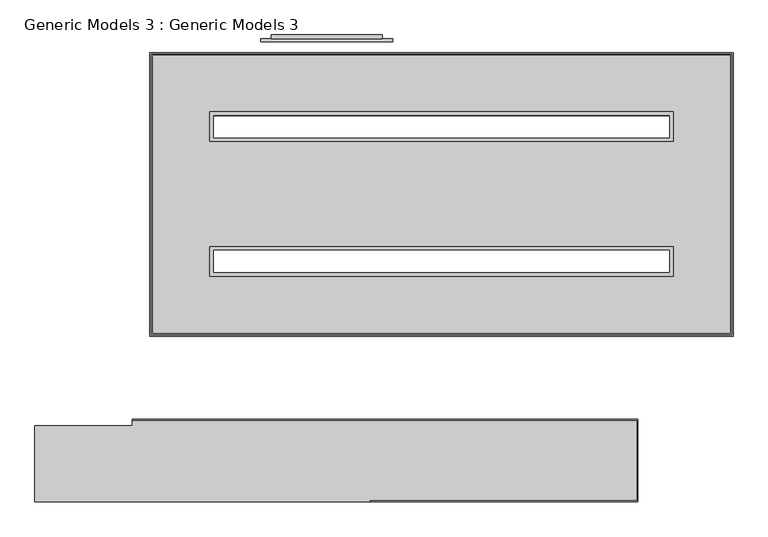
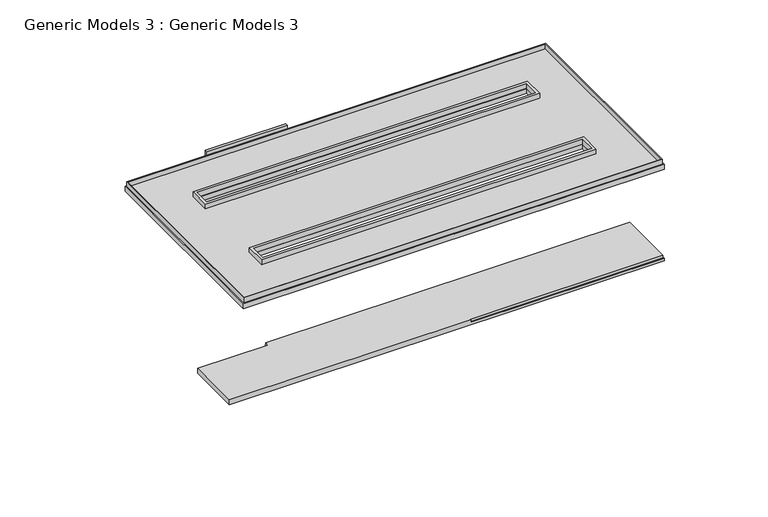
"""IFC4 building model written with IfcOpenShell, lengths in millimetres: proxy geometry, Generic Models 3 : Generic Models 3."""

from ifc_helpers import new_model, si_unit, frame, origin, place, context, project, spatial, polyline, circle_curve, outline, extrude, faceted_brep, source, transform, mapped, element, save
from ifc_brep_helpers import plane_surface, revolved_surface, advanced_brep


def generic_models_3_generic_models_3_4cce19c5(model_context):
    return source(origin(), model_context, "Body", "SolidModel", [
        extrude(outline(polyline([(1168.7283105, 3450.7516238), (-5379.6613932, 3450.7516238), (-5379.6613932, 3870.0030023), (1168.7283105, 3870.0030023), (1168.7283105, 3450.7516238)]), holes=[polyline([(1113.8919816, 3815.1666734), (-5324.8250642, 3815.1666734), (-5324.8250642, 3505.5879527), (1113.8919816, 3505.5879527), (1113.8919816, 3815.1666734)])]), frame((0.0, 0.0, 2450.0), z_axis=(0.0, 0.0, 1.0), x_axis=(1.0, 0.0, 0.0)), (0.0, 0.0, 1.0), 100.0),
        extrude(outline(polyline([(1168.7283105, 1546.1268229), (-5379.6613932, 1546.1268229), (-5379.6613932, 1965.3782014), (1168.7283105, 1965.3782014), (1168.7283105, 1546.1268229)]), holes=[polyline([(1113.8919816, 1910.5418725), (-5324.8250642, 1910.5418725), (-5324.8250642, 1600.9631518), (1113.8919816, 1600.9631518), (1113.8919816, 1910.5418725)])]), frame((0.0, 0.0, 2450.0), z_axis=(0.0, 0.0, 1.0), x_axis=(1.0, 0.0, 0.0)), (0.0, 0.0, 1.0), 100.0),
        extrude(outline(polyline([(1993.8919816, 720.9631518), (-6204.8250642, 720.9631518), (-6204.8250642, 4685.5879527), (1993.8919816, 4685.5879527), (1993.8919816, 720.9631518)]), holes=[polyline([(1973.8919816, 4665.5879527), (-6184.8250642, 4665.5879527), (-6184.8250642, 740.9631518), (1973.8919816, 740.9631518), (1973.8919816, 4665.5879527)])]), frame((0.0, 0.0, 2450.0), z_axis=(0.0, 0.0, 1.0), x_axis=(1.0, 0.0, 0.0)), (0.0, 0.0, 1.0), 100.0),
        faceted_brep([(-7848.5491004, -566.5989847, 2450.0), (-7848.5491004, -1640.348587, 2450.0), (-3119.7531345, -1640.348587, 2450.0), (-3119.7531345, -1620.348587, 2450.0), (650.0523126, -1620.348587, 2450.0), (650.0523126, -492.1377828, 2450.0), (-6474.8250642, -492.1377828, 2450.0), (-6474.8250642, -566.5989847, 2450.0), (-7848.5491004, -566.5989847, 2350.0), (-6474.8250642, -566.5989847, 2350.0), (-6474.8250642, -472.1377828, 2350.0), (670.0523126, -472.1377828, 2350.0), (670.0523126, -1640.348587, 2350.0), (-7848.5491004, -1640.348587, 2350.0), (670.0523126, -1640.348587, 2400.0), (-3119.7531345, -1640.348587, 2400.0), (670.0523126, -472.1377828, 2400.0), (-6474.8250642, -472.1377828, 2400.0), (-6474.8250642, -492.1377828, 2400.0), (-3119.7531345, -1620.348587, 2400.0), (650.0523126, -1620.348587, 2400.0), (650.0523126, -492.1377828, 2400.0)], [[[0, 1, 2, 3, 4, 5, 6, 7]], [[8, 9, 10, 11, 12, 13]], [[1, 0, 8, 13]], [[13, 12, 14, 15, 2, 1]], [[12, 11, 16, 14]], [[11, 10, 17, 16]], [[10, 9, 7, 6, 18, 17]], [[0, 7, 9, 8]], [[15, 19, 3, 2]], [[3, 19, 20, 4]], [[19, 15, 14, 16, 17, 18, 21, 20]], [[4, 20, 21, 5]], [[21, 18, 6, 5]]]),
        advanced_brep(
        [(-6224.8250642, 700.9631518, 2450.0), (2013.8919816, 700.9631518, 2450.0), (2013.8919816, 4705.5879527, 2450.0), (-6224.8250642, 4705.5879527, 2450.0), (1113.8919816, 1600.9631518, 2450.0), (-5324.8250642, 1600.9631518, 2450.0), (-5324.8250642, 1910.5418725, 2450.0), (1113.8919816, 1910.5418725, 2450.0), (1113.8919816, 3805.5879527, 2450.0), (1113.8919816, 3505.5879527, 2450.0), (-5324.8250642, 3505.5879527, 2450.0), (-5324.8250642, 3805.5879527, 2450.0), (-6224.8250642, 700.9631518, 2350.0), (-6224.8250642, 4705.5879527, 2350.0), (2013.8919816, 4705.5879527, 2350.0), (2013.8919816, 700.9631518, 2350.0), (1113.8919816, 1600.9631518, 2350.0), (1113.8919816, 1910.5418725, 2350.0), (-5324.8250642, 1910.5418725, 2350.0), (-5324.8250642, 1600.9631518, 2350.0), (1113.8919816, 3805.5879527, 2350.0), (-5324.8250642, 3805.5879527, 2350.0), (-5324.8250642, 3505.5879527, 2350.0), (1113.8919816, 3505.5879527, 2350.0), (613.1904707, 2712.3978148, 2350.0), (714.5934952, 2712.3978148, 2350.0), (-2156.1665461, 4265.1666734, 2350.0), (-2054.7665365, 4265.1666734, 2350.0), (-1233.047038, 4265.1666734, 2350.0), (-1131.6470285, 4265.1666734, 2350.0), (-309.9275299, 4265.1666734, 2350.0), (-208.5275204, 4265.1666734, 2350.0), (613.1919782, 4265.1666734, 2350.0), (714.5919877, 4265.1666734, 2350.0), (1513.1919768, 4265.1666734, 2350.0), (1614.5919864, 4265.1666734, 2350.0), (-3079.2860542, 4265.1666734, 2350.0), (-2977.8860446, 4265.1666734, 2350.0), (-4002.4055623, 4265.1666734, 2350.0), (-3901.0055527, 4265.1666734, 2350.0), (-4925.5250704, 4265.1666734, 2350.0), (-4824.1250608, 4265.1666734, 2350.0), (-5825.525069, 4265.1666734, 2350.0), (-5724.1250595, 4265.1666734, 2350.0), (-2156.1665461, 1150.9631518, 2350.0), (-2054.7665365, 1150.9631518, 2350.0), (-1233.047038, 1150.9631518, 2350.0), (-1131.6470285, 1150.9631518, 2350.0), (-309.9275299, 1150.9631518, 2350.0), (-208.5275204, 1150.9631518, 2350.0), (613.1919782, 1150.9631518, 2350.0), (714.5919877, 1150.9631518, 2350.0), (1513.1919768, 1150.9631518, 2350.0), (1614.5919864, 1150.9631518, 2350.0), (-3079.2860542, 1150.9631518, 2350.0), (-2977.8860446, 1150.9631518, 2350.0), (-4002.4055623, 1150.9631518, 2350.0), (-3901.0055527, 1150.9631518, 2350.0), (-4925.5250704, 1150.9631518, 2350.0), (-4824.1250608, 1150.9631518, 2350.0), (-5825.525069, 1150.9631518, 2350.0), (-5724.1250595, 1150.9631518, 2350.0), (-2156.1665461, 2708.0649126, 2350.0), (-2054.7665365, 2708.0649126, 2350.0), (-1233.047038, 2708.0649126, 2350.0), (-1131.6470285, 2708.0649126, 2350.0), (-309.9275299, 2708.0649126, 2350.0), (-208.5275204, 2708.0649126, 2350.0), (1513.1919768, 2708.0649126, 2350.0), (1614.5919864, 2708.0649126, 2350.0), (-3079.2860542, 2708.0649126, 2350.0), (-2977.8860446, 2708.0649126, 2350.0), (-4002.4055623, 2708.0649126, 2350.0), (-3901.0055527, 2708.0649126, 2350.0), (-4925.5250704, 2708.0649126, 2350.0), (-4824.1250608, 2708.0649126, 2350.0), (-5825.525069, 2708.0649126, 2350.0), (-5724.1250595, 2708.0649126, 2350.0), (613.1904707, 2712.3978148, 2388.4), (714.5934952, 2712.3978148, 2388.4), (-2156.1665461, 4265.1666734, 2388.4), (-2054.7665365, 4265.1666734, 2388.4), (-1233.047038, 4265.1666734, 2388.4), (-1131.6470285, 4265.1666734, 2388.4), (-309.9275299, 4265.1666734, 2388.4), (-208.5275204, 4265.1666734, 2388.4), (613.1919782, 4265.1666734, 2388.4), (714.5919877, 4265.1666734, 2388.4), (1513.1919768, 4265.1666734, 2388.4), (1614.5919864, 4265.1666734, 2388.4), (-3079.2860542, 4265.1666734, 2388.4), (-2977.8860446, 4265.1666734, 2388.4), (-4002.4055623, 4265.1666734, 2388.4), (-3901.0055527, 4265.1666734, 2388.4), (-4925.5250704, 4265.1666734, 2388.4), (-4824.1250608, 4265.1666734, 2388.4), (-5825.525069, 4265.1666734, 2388.4), (-5724.1250595, 4265.1666734, 2388.4), (-2156.1665461, 1150.9631518, 2388.4), (-2054.7665365, 1150.9631518, 2388.4), (-1233.047038, 1150.9631518, 2388.4), (-1131.6470285, 1150.9631518, 2388.4), (-309.9275299, 1150.9631518, 2388.4), (-208.5275204, 1150.9631518, 2388.4), (613.1919782, 1150.9631518, 2388.4), (714.5919877, 1150.9631518, 2388.4), (1513.1919768, 1150.9631518, 2388.4), (1614.5919864, 1150.9631518, 2388.4), (-3079.2860542, 1150.9631518, 2388.4), (-2977.8860446, 1150.9631518, 2388.4), (-4002.4055623, 1150.9631518, 2388.4), (-3901.0055527, 1150.9631518, 2388.4), (-4925.5250704, 1150.9631518, 2388.4), (-4824.1250608, 1150.9631518, 2388.4), (-5825.525069, 1150.9631518, 2388.4), (-5724.1250595, 1150.9631518, 2388.4), (-2156.1665461, 2708.0649126, 2388.4), (-2054.7665365, 2708.0649126, 2388.4), (-1233.047038, 2708.0649126, 2388.4), (-1131.6470285, 2708.0649126, 2388.4), (-309.9275299, 2708.0649126, 2388.4), (-208.5275204, 2708.0649126, 2388.4), (1513.1919768, 2708.0649126, 2388.4), (1614.5919864, 2708.0649126, 2388.4), (-3079.2860542, 2708.0649126, 2388.4), (-2977.8860446, 2708.0649126, 2388.4), (-4002.4055623, 2708.0649126, 2388.4), (-3901.0055527, 2708.0649126, 2388.4), (-4925.5250704, 2708.0649126, 2388.4), (-4824.1250608, 2708.0649126, 2388.4), (-5825.525069, 2708.0649126, 2388.4), (-5724.1250595, 2708.0649126, 2388.4)],
        [
            (0, 1),
            (1, 2),
            (2, 3),
            (3, 0),
            (4, 5),
            (5, 6),
            (6, 7),
            (7, 4),
            (8, 9),
            (9, 10),
            (10, 11),
            (11, 8),
            (12, 13),
            (13, 14),
            (14, 15),
            (15, 12),
            (16, 17),
            (17, 18),
            (18, 19),
            (19, 16),
            (20, 21),
            (21, 22),
            (22, 23),
            (23, 20),
            (24, 25, circle_curve(frame((663.8919829, 2712.3978148, 2350.0), z_axis=(0.0, 0.0, 1.0), x_axis=(1.0, 0.0, 0.0)), 50.7015123)),
            (25, 24, circle_curve(frame((663.8919829, 2712.3978148, 2350.0), z_axis=(0.0, 0.0, 1.0), x_axis=(1.0, 0.0, 0.0)), 50.7015123)),
            (26, 27, circle_curve(frame((-2105.4665413, 4265.1666734, 2350.0), z_axis=(0.0, 0.0, 1.0), x_axis=(1.0, 0.0, 0.0)), 50.7000048)),
            (27, 26, circle_curve(frame((-2105.4665413, 4265.1666734, 2350.0), z_axis=(0.0, 0.0, 1.0), x_axis=(1.0, 0.0, 0.0)), 50.7000048)),
            (28, 29, circle_curve(frame((-1182.3470332, 4265.1666734, 2350.0), z_axis=(0.0, 0.0, 1.0), x_axis=(1.0, 0.0, 0.0)), 50.7000048)),
            (29, 28, circle_curve(frame((-1182.3470332, 4265.1666734, 2350.0), z_axis=(0.0, 0.0, 1.0), x_axis=(1.0, 0.0, 0.0)), 50.7000048)),
            (30, 31, circle_curve(frame((-259.2275251, 4265.1666734, 2350.0), z_axis=(0.0, 0.0, 1.0), x_axis=(1.0, 0.0, 0.0)), 50.7000048)),
            (31, 30, circle_curve(frame((-259.2275251, 4265.1666734, 2350.0), z_axis=(0.0, 0.0, 1.0), x_axis=(1.0, 0.0, 0.0)), 50.7000048)),
            (32, 33, circle_curve(frame((663.8919829, 4265.1666734, 2350.0), z_axis=(0.0, 0.0, 1.0), x_axis=(1.0, 0.0, 0.0)), 50.7000048)),
            (33, 32, circle_curve(frame((663.8919829, 4265.1666734, 2350.0), z_axis=(0.0, 0.0, 1.0), x_axis=(1.0, 0.0, 0.0)), 50.7000048)),
            (34, 35, circle_curve(frame((1563.8919816, 4265.1666734, 2350.0), z_axis=(0.0, 0.0, 1.0), x_axis=(1.0, 0.0, 0.0)), 50.7000048)),
            (35, 34, circle_curve(frame((1563.8919816, 4265.1666734, 2350.0), z_axis=(0.0, 0.0, 1.0), x_axis=(1.0, 0.0, 0.0)), 50.7000048)),
            (36, 37, circle_curve(frame((-3028.5860494, 4265.1666734, 2350.0), z_axis=(0.0, 0.0, 1.0), x_axis=(1.0, 0.0, 0.0)), 50.7000048)),
            (37, 36, circle_curve(frame((-3028.5860494, 4265.1666734, 2350.0), z_axis=(0.0, 0.0, 1.0), x_axis=(1.0, 0.0, 0.0)), 50.7000048)),
            (38, 39, circle_curve(frame((-3951.7055575, 4265.1666734, 2350.0), z_axis=(0.0, 0.0, 1.0), x_axis=(1.0, 0.0, 0.0)), 50.7000048)),
            (39, 38, circle_curve(frame((-3951.7055575, 4265.1666734, 2350.0), z_axis=(0.0, 0.0, 1.0), x_axis=(1.0, 0.0, 0.0)), 50.7000048)),
            (40, 41, circle_curve(frame((-4874.8250656, 4265.1666734, 2350.0), z_axis=(0.0, 0.0, 1.0), x_axis=(1.0, 0.0, 0.0)), 50.7000048)),
            (41, 40, circle_curve(frame((-4874.8250656, 4265.1666734, 2350.0), z_axis=(0.0, 0.0, 1.0), x_axis=(1.0, 0.0, 0.0)), 50.7000048)),
            (42, 43, circle_curve(frame((-5774.8250642, 4265.1666734, 2350.0), z_axis=(0.0, 0.0, 1.0), x_axis=(1.0, 0.0, 0.0)), 50.7000048)),
            (43, 42, circle_curve(frame((-5774.8250642, 4265.1666734, 2350.0), z_axis=(0.0, 0.0, 1.0), x_axis=(1.0, 0.0, 0.0)), 50.7000048)),
            (44, 45, circle_curve(frame((-2105.4665413, 1150.9631518, 2350.0), z_axis=(0.0, 0.0, 1.0), x_axis=(1.0, 0.0, 0.0)), 50.7000048)),
            (45, 44, circle_curve(frame((-2105.4665413, 1150.9631518, 2350.0), z_axis=(0.0, 0.0, 1.0), x_axis=(1.0, 0.0, 0.0)), 50.7000048)),
            (46, 47, circle_curve(frame((-1182.3470332, 1150.9631518, 2350.0), z_axis=(0.0, 0.0, 1.0), x_axis=(1.0, 0.0, 0.0)), 50.7000048)),
            (47, 46, circle_curve(frame((-1182.3470332, 1150.9631518, 2350.0), z_axis=(0.0, 0.0, 1.0), x_axis=(1.0, 0.0, 0.0)), 50.7000048)),
            (48, 49, circle_curve(frame((-259.2275251, 1150.9631518, 2350.0), z_axis=(0.0, 0.0, 1.0), x_axis=(1.0, 0.0, 0.0)), 50.7000048)),
            (49, 48, circle_curve(frame((-259.2275251, 1150.9631518, 2350.0), z_axis=(0.0, 0.0, 1.0), x_axis=(1.0, 0.0, 0.0)), 50.7000048)),
            (50, 51, circle_curve(frame((663.8919829, 1150.9631518, 2350.0), z_axis=(0.0, 0.0, 1.0), x_axis=(1.0, 0.0, 0.0)), 50.7000048)),
            (51, 50, circle_curve(frame((663.8919829, 1150.9631518, 2350.0), z_axis=(0.0, 0.0, 1.0), x_axis=(1.0, 0.0, 0.0)), 50.7000048)),
            (52, 53, circle_curve(frame((1563.8919816, 1150.9631518, 2350.0), z_axis=(0.0, 0.0, 1.0), x_axis=(1.0, 0.0, 0.0)), 50.7000048)),
            (53, 52, circle_curve(frame((1563.8919816, 1150.9631518, 2350.0), z_axis=(0.0, 0.0, 1.0), x_axis=(1.0, 0.0, 0.0)), 50.7000048)),
            (54, 55, circle_curve(frame((-3028.5860494, 1150.9631518, 2350.0), z_axis=(0.0, 0.0, 1.0), x_axis=(1.0, 0.0, 0.0)), 50.7000048)),
            (55, 54, circle_curve(frame((-3028.5860494, 1150.9631518, 2350.0), z_axis=(0.0, 0.0, 1.0), x_axis=(1.0, 0.0, 0.0)), 50.7000048)),
            (56, 57, circle_curve(frame((-3951.7055575, 1150.9631518, 2350.0), z_axis=(0.0, 0.0, 1.0), x_axis=(1.0, 0.0, 0.0)), 50.7000048)),
            (57, 56, circle_curve(frame((-3951.7055575, 1150.9631518, 2350.0), z_axis=(0.0, 0.0, 1.0), x_axis=(1.0, 0.0, 0.0)), 50.7000048)),
            (58, 59, circle_curve(frame((-4874.8250656, 1150.9631518, 2350.0), z_axis=(0.0, 0.0, 1.0), x_axis=(1.0, 0.0, 0.0)), 50.7000048)),
            (59, 58, circle_curve(frame((-4874.8250656, 1150.9631518, 2350.0), z_axis=(0.0, 0.0, 1.0), x_axis=(1.0, 0.0, 0.0)), 50.7000048)),
            (60, 61, circle_curve(frame((-5774.8250642, 1150.9631518, 2350.0), z_axis=(0.0, 0.0, 1.0), x_axis=(1.0, 0.0, 0.0)), 50.7000048)),
            (61, 60, circle_curve(frame((-5774.8250642, 1150.9631518, 2350.0), z_axis=(0.0, 0.0, 1.0), x_axis=(1.0, 0.0, 0.0)), 50.7000048)),
            (62, 63, circle_curve(frame((-2105.4665413, 2708.0649126, 2350.0), z_axis=(0.0, 0.0, 1.0), x_axis=(1.0, 0.0, 0.0)), 50.7000048)),
            (63, 62, circle_curve(frame((-2105.4665413, 2708.0649126, 2350.0), z_axis=(0.0, 0.0, 1.0), x_axis=(1.0, 0.0, 0.0)), 50.7000048)),
            (64, 65, circle_curve(frame((-1182.3470332, 2708.0649126, 2350.0), z_axis=(0.0, 0.0, 1.0), x_axis=(1.0, 0.0, 0.0)), 50.7000048)),
            (65, 64, circle_curve(frame((-1182.3470332, 2708.0649126, 2350.0), z_axis=(0.0, 0.0, 1.0), x_axis=(1.0, 0.0, 0.0)), 50.7000048)),
            (66, 67, circle_curve(frame((-259.2275251, 2708.0649126, 2350.0), z_axis=(0.0, 0.0, 1.0), x_axis=(1.0, 0.0, 0.0)), 50.7000048)),
            (67, 66, circle_curve(frame((-259.2275251, 2708.0649126, 2350.0), z_axis=(0.0, 0.0, 1.0), x_axis=(1.0, 0.0, 0.0)), 50.7000048)),
            (68, 69, circle_curve(frame((1563.8919816, 2708.0649126, 2350.0), z_axis=(0.0, 0.0, 1.0), x_axis=(1.0, 0.0, 0.0)), 50.7000048)),
            (69, 68, circle_curve(frame((1563.8919816, 2708.0649126, 2350.0), z_axis=(0.0, 0.0, 1.0), x_axis=(1.0, 0.0, 0.0)), 50.7000048)),
            (70, 71, circle_curve(frame((-3028.5860494, 2708.0649126, 2350.0), z_axis=(0.0, 0.0, 1.0), x_axis=(1.0, 0.0, 0.0)), 50.7000048)),
            (71, 70, circle_curve(frame((-3028.5860494, 2708.0649126, 2350.0), z_axis=(0.0, 0.0, 1.0), x_axis=(1.0, 0.0, 0.0)), 50.7000048)),
            (72, 73, circle_curve(frame((-3951.7055575, 2708.0649126, 2350.0), z_axis=(0.0, 0.0, 1.0), x_axis=(1.0, 0.0, 0.0)), 50.7000048)),
            (73, 72, circle_curve(frame((-3951.7055575, 2708.0649126, 2350.0), z_axis=(0.0, 0.0, 1.0), x_axis=(1.0, 0.0, 0.0)), 50.7000048)),
            (74, 75, circle_curve(frame((-4874.8250656, 2708.0649126, 2350.0), z_axis=(0.0, 0.0, 1.0), x_axis=(1.0, 0.0, 0.0)), 50.7000048)),
            (75, 74, circle_curve(frame((-4874.8250656, 2708.0649126, 2350.0), z_axis=(0.0, 0.0, 1.0), x_axis=(1.0, 0.0, 0.0)), 50.7000048)),
            (76, 77, circle_curve(frame((-5774.8250642, 2708.0649126, 2350.0), z_axis=(0.0, 0.0, 1.0), x_axis=(1.0, 0.0, 0.0)), 50.7000048)),
            (77, 76, circle_curve(frame((-5774.8250642, 2708.0649126, 2350.0), z_axis=(0.0, 0.0, 1.0), x_axis=(1.0, 0.0, 0.0)), 50.7000048)),
            (2, 14),
            (13, 3),
            (12, 0),
            (15, 1),
            (78, 79, circle_curve(frame((663.8919829, 2712.3978148, 2388.4), z_axis=(0.0, 0.0, -1.0), x_axis=(1.0, 0.0, 0.0)), 50.7015123)),
            (79, 78, circle_curve(frame((663.8919829, 2712.3978148, 2388.4), z_axis=(0.0, 0.0, -1.0), x_axis=(1.0, 0.0, 0.0)), 50.7015123)),
            (80, 81, circle_curve(frame((-2105.4665413, 4265.1666734, 2388.4), z_axis=(0.0, 0.0, -1.0), x_axis=(1.0, 0.0, 0.0)), 50.7000048)),
            (81, 80, circle_curve(frame((-2105.4665413, 4265.1666734, 2388.4), z_axis=(0.0, 0.0, -1.0), x_axis=(1.0, 0.0, 0.0)), 50.7000048)),
            (82, 83, circle_curve(frame((-1182.3470332, 4265.1666734, 2388.4), z_axis=(0.0, 0.0, -1.0), x_axis=(1.0, 0.0, 0.0)), 50.7000048)),
            (83, 82, circle_curve(frame((-1182.3470332, 4265.1666734, 2388.4), z_axis=(0.0, 0.0, -1.0), x_axis=(1.0, 0.0, 0.0)), 50.7000048)),
            (84, 85, circle_curve(frame((-259.2275251, 4265.1666734, 2388.4), z_axis=(0.0, 0.0, -1.0), x_axis=(1.0, 0.0, 0.0)), 50.7000048)),
            (85, 84, circle_curve(frame((-259.2275251, 4265.1666734, 2388.4), z_axis=(0.0, 0.0, -1.0), x_axis=(1.0, 0.0, 0.0)), 50.7000048)),
            (86, 87, circle_curve(frame((663.8919829, 4265.1666734, 2388.4), z_axis=(0.0, 0.0, -1.0), x_axis=(1.0, 0.0, 0.0)), 50.7000048)),
            (87, 86, circle_curve(frame((663.8919829, 4265.1666734, 2388.4), z_axis=(0.0, 0.0, -1.0), x_axis=(1.0, 0.0, 0.0)), 50.7000048)),
            (88, 89, circle_curve(frame((1563.8919816, 4265.1666734, 2388.4), z_axis=(0.0, 0.0, -1.0), x_axis=(1.0, 0.0, 0.0)), 50.7000048)),
            (89, 88, circle_curve(frame((1563.8919816, 4265.1666734, 2388.4), z_axis=(0.0, 0.0, -1.0), x_axis=(1.0, 0.0, 0.0)), 50.7000048)),
            (90, 91, circle_curve(frame((-3028.5860494, 4265.1666734, 2388.4), z_axis=(0.0, 0.0, -1.0), x_axis=(1.0, 0.0, 0.0)), 50.7000048)),
            (91, 90, circle_curve(frame((-3028.5860494, 4265.1666734, 2388.4), z_axis=(0.0, 0.0, -1.0), x_axis=(1.0, 0.0, 0.0)), 50.7000048)),
            (92, 93, circle_curve(frame((-3951.7055575, 4265.1666734, 2388.4), z_axis=(0.0, 0.0, -1.0), x_axis=(1.0, 0.0, 0.0)), 50.7000048)),
            (93, 92, circle_curve(frame((-3951.7055575, 4265.1666734, 2388.4), z_axis=(0.0, 0.0, -1.0), x_axis=(1.0, 0.0, 0.0)), 50.7000048)),
            (94, 95, circle_curve(frame((-4874.8250656, 4265.1666734, 2388.4), z_axis=(0.0, 0.0, -1.0), x_axis=(1.0, 0.0, 0.0)), 50.7000048)),
            (95, 94, circle_curve(frame((-4874.8250656, 4265.1666734, 2388.4), z_axis=(0.0, 0.0, -1.0), x_axis=(1.0, 0.0, 0.0)), 50.7000048)),
            (96, 97, circle_curve(frame((-5774.8250642, 4265.1666734, 2388.4), z_axis=(0.0, 0.0, -1.0), x_axis=(1.0, 0.0, 0.0)), 50.7000048)),
            (97, 96, circle_curve(frame((-5774.8250642, 4265.1666734, 2388.4), z_axis=(0.0, 0.0, -1.0), x_axis=(1.0, 0.0, 0.0)), 50.7000048)),
            (98, 99, circle_curve(frame((-2105.4665413, 1150.9631518, 2388.4), z_axis=(0.0, 0.0, -1.0), x_axis=(1.0, 0.0, 0.0)), 50.7000048)),
            (99, 98, circle_curve(frame((-2105.4665413, 1150.9631518, 2388.4), z_axis=(0.0, 0.0, -1.0), x_axis=(1.0, 0.0, 0.0)), 50.7000048)),
            (100, 101, circle_curve(frame((-1182.3470332, 1150.9631518, 2388.4), z_axis=(0.0, 0.0, -1.0), x_axis=(1.0, 0.0, 0.0)), 50.7000048)),
            (101, 100, circle_curve(frame((-1182.3470332, 1150.9631518, 2388.4), z_axis=(0.0, 0.0, -1.0), x_axis=(1.0, 0.0, 0.0)), 50.7000048)),
            (102, 103, circle_curve(frame((-259.2275251, 1150.9631518, 2388.4), z_axis=(0.0, 0.0, -1.0), x_axis=(1.0, 0.0, 0.0)), 50.7000048)),
            (103, 102, circle_curve(frame((-259.2275251, 1150.9631518, 2388.4), z_axis=(0.0, 0.0, -1.0), x_axis=(1.0, 0.0, 0.0)), 50.7000048)),
            (104, 105, circle_curve(frame((663.8919829, 1150.9631518, 2388.4), z_axis=(0.0, 0.0, -1.0), x_axis=(1.0, 0.0, 0.0)), 50.7000048)),
            (105, 104, circle_curve(frame((663.8919829, 1150.9631518, 2388.4), z_axis=(0.0, 0.0, -1.0), x_axis=(1.0, 0.0, 0.0)), 50.7000048)),
            (106, 107, circle_curve(frame((1563.8919816, 1150.9631518, 2388.4), z_axis=(0.0, 0.0, -1.0), x_axis=(1.0, 0.0, 0.0)), 50.7000048)),
            (107, 106, circle_curve(frame((1563.8919816, 1150.9631518, 2388.4), z_axis=(0.0, 0.0, -1.0), x_axis=(1.0, 0.0, 0.0)), 50.7000048)),
            (108, 109, circle_curve(frame((-3028.5860494, 1150.9631518, 2388.4), z_axis=(0.0, 0.0, -1.0), x_axis=(1.0, 0.0, 0.0)), 50.7000048)),
            (109, 108, circle_curve(frame((-3028.5860494, 1150.9631518, 2388.4), z_axis=(0.0, 0.0, -1.0), x_axis=(1.0, 0.0, 0.0)), 50.7000048)),
            (110, 111, circle_curve(frame((-3951.7055575, 1150.9631518, 2388.4), z_axis=(0.0, 0.0, -1.0), x_axis=(1.0, 0.0, 0.0)), 50.7000048)),
            (111, 110, circle_curve(frame((-3951.7055575, 1150.9631518, 2388.4), z_axis=(0.0, 0.0, -1.0), x_axis=(1.0, 0.0, 0.0)), 50.7000048)),
            (112, 113, circle_curve(frame((-4874.8250656, 1150.9631518, 2388.4), z_axis=(0.0, 0.0, -1.0), x_axis=(1.0, 0.0, 0.0)), 50.7000048)),
            (113, 112, circle_curve(frame((-4874.8250656, 1150.9631518, 2388.4), z_axis=(0.0, 0.0, -1.0), x_axis=(1.0, 0.0, 0.0)), 50.7000048)),
            (114, 115, circle_curve(frame((-5774.8250642, 1150.9631518, 2388.4), z_axis=(0.0, 0.0, -1.0), x_axis=(1.0, 0.0, 0.0)), 50.7000048)),
            (115, 114, circle_curve(frame((-5774.8250642, 1150.9631518, 2388.4), z_axis=(0.0, 0.0, -1.0), x_axis=(1.0, 0.0, 0.0)), 50.7000048)),
            (116, 117, circle_curve(frame((-2105.4665413, 2708.0649126, 2388.4), z_axis=(0.0, 0.0, -1.0), x_axis=(1.0, 0.0, 0.0)), 50.7000048)),
            (117, 116, circle_curve(frame((-2105.4665413, 2708.0649126, 2388.4), z_axis=(0.0, 0.0, -1.0), x_axis=(1.0, 0.0, 0.0)), 50.7000048)),
            (118, 119, circle_curve(frame((-1182.3470332, 2708.0649126, 2388.4), z_axis=(0.0, 0.0, -1.0), x_axis=(1.0, 0.0, 0.0)), 50.7000048)),
            (119, 118, circle_curve(frame((-1182.3470332, 2708.0649126, 2388.4), z_axis=(0.0, 0.0, -1.0), x_axis=(1.0, 0.0, 0.0)), 50.7000048)),
            (120, 121, circle_curve(frame((-259.2275251, 2708.0649126, 2388.4), z_axis=(0.0, 0.0, -1.0), x_axis=(1.0, 0.0, 0.0)), 50.7000048)),
            (121, 120, circle_curve(frame((-259.2275251, 2708.0649126, 2388.4), z_axis=(0.0, 0.0, -1.0), x_axis=(1.0, 0.0, 0.0)), 50.7000048)),
            (122, 123, circle_curve(frame((1563.8919816, 2708.0649126, 2388.4), z_axis=(0.0, 0.0, -1.0), x_axis=(1.0, 0.0, 0.0)), 50.7000048)),
            (123, 122, circle_curve(frame((1563.8919816, 2708.0649126, 2388.4), z_axis=(0.0, 0.0, -1.0), x_axis=(1.0, 0.0, 0.0)), 50.7000048)),
            (124, 125, circle_curve(frame((-3028.5860494, 2708.0649126, 2388.4), z_axis=(0.0, 0.0, -1.0), x_axis=(1.0, 0.0, 0.0)), 50.7000048)),
            (125, 124, circle_curve(frame((-3028.5860494, 2708.0649126, 2388.4), z_axis=(0.0, 0.0, -1.0), x_axis=(1.0, 0.0, 0.0)), 50.7000048)),
            (126, 127, circle_curve(frame((-3951.7055575, 2708.0649126, 2388.4), z_axis=(0.0, 0.0, -1.0), x_axis=(1.0, 0.0, 0.0)), 50.7000048)),
            (127, 126, circle_curve(frame((-3951.7055575, 2708.0649126, 2388.4), z_axis=(0.0, 0.0, -1.0), x_axis=(1.0, 0.0, 0.0)), 50.7000048)),
            (128, 129, circle_curve(frame((-4874.8250656, 2708.0649126, 2388.4), z_axis=(0.0, 0.0, -1.0), x_axis=(1.0, 0.0, 0.0)), 50.7000048)),
            (129, 128, circle_curve(frame((-4874.8250656, 2708.0649126, 2388.4), z_axis=(0.0, 0.0, -1.0), x_axis=(1.0, 0.0, 0.0)), 50.7000048)),
            (130, 131, circle_curve(frame((-5774.8250642, 2708.0649126, 2388.4), z_axis=(0.0, 0.0, -1.0), x_axis=(1.0, 0.0, 0.0)), 50.7000048)),
            (131, 130, circle_curve(frame((-5774.8250642, 2708.0649126, 2388.4), z_axis=(0.0, 0.0, -1.0), x_axis=(1.0, 0.0, 0.0)), 50.7000048)),
            (4, 16),
            (19, 5),
            (18, 6),
            (17, 7),
            (8, 20),
            (23, 9),
            (22, 10),
            (21, 11),
            (79, 25),
            (24, 78),
            (81, 27),
            (26, 80),
            (83, 29),
            (28, 82),
            (85, 31),
            (30, 84),
            (87, 33),
            (32, 86),
            (89, 35),
            (34, 88),
            (91, 37),
            (36, 90),
            (93, 39),
            (38, 92),
            (95, 41),
            (40, 94),
            (97, 43),
            (42, 96),
            (99, 45),
            (44, 98),
            (101, 47),
            (46, 100),
            (103, 49),
            (48, 102),
            (105, 51),
            (50, 104),
            (107, 53),
            (52, 106),
            (109, 55),
            (54, 108),
            (111, 57),
            (56, 110),
            (113, 59),
            (58, 112),
            (115, 61),
            (60, 114),
            (117, 63),
            (62, 116),
            (119, 65),
            (64, 118),
            (121, 67),
            (66, 120),
            (123, 69),
            (68, 122),
            (125, 71),
            (70, 124),
            (127, 73),
            (72, 126),
            (129, 75),
            (74, 128),
            (131, 77),
            (76, 130),
        ],
        [
            plane_surface(frame((-2791.5399964, 700.9631518, 2450.0), z_axis=(0.0, 0.0, 1.0), x_axis=(1.0, 0.0, 0.0))),
            plane_surface(frame((-2791.5399964, 700.9631518, 2350.0), z_axis=(0.0, 0.0, -1.0), x_axis=(-1.0, 0.0, 0.0))),
            plane_surface(frame((2013.8919816, 4705.5879527, 2450.0), z_axis=(0.0, 1.0, 0.0), x_axis=(0.0, 0.0, -1.0))),
            plane_surface(frame((-6224.8250642, 4705.5879527, 2450.0), z_axis=(-1.0, 0.0, 0.0), x_axis=(0.0, 0.0, -1.0))),
            plane_surface(frame((-6224.8250642, 700.9631518, 2450.0), z_axis=(0.0, -1.0, 0.0), x_axis=(0.0, 0.0, -1.0))),
            plane_surface(frame((714.5934952, 2712.3978148, 2388.4), z_axis=(0.0, 0.0, -1.0), x_axis=(0.0, 1.0, 0.0))),
            plane_surface(frame((2013.8919816, 700.9631518, 2450.0), z_axis=(1.0, 0.0, 0.0), x_axis=(0.0, 0.0, -1.0))),
            plane_surface(frame((1113.8919816, 1600.9631518, 2450.0), z_axis=(0.0, 1.0, 0.0), x_axis=(0.0, 0.0, -1.0))),
            plane_surface(frame((-5324.8250642, 1600.9631518, 2450.0), z_axis=(1.0, 0.0, 0.0), x_axis=(0.0, 0.0, -1.0))),
            plane_surface(frame((-5324.8250642, 1910.5418725, 2450.0), z_axis=(0.0, -1.0, 0.0), x_axis=(0.0, 0.0, -1.0))),
            plane_surface(frame((1113.8919816, 1910.5418725, 2450.0), z_axis=(-1.0, 0.0, 0.0), x_axis=(0.0, 0.0, -1.0))),
            plane_surface(frame((1113.8919816, 3805.5879527, 2450.0), z_axis=(-1.0, 0.0, 0.0), x_axis=(0.0, 0.0, -1.0))),
            plane_surface(frame((1113.8919816, 3505.5879527, 2450.0), z_axis=(0.0, 1.0, 0.0), x_axis=(0.0, 0.0, -1.0))),
            plane_surface(frame((-5324.8250642, 3505.5879527, 2450.0), z_axis=(1.0, 0.0, 0.0), x_axis=(0.0, 0.0, -1.0))),
            plane_surface(frame((-5324.8250642, 3805.5879527, 2450.0), z_axis=(0.0, -1.0, 0.0), x_axis=(0.0, 0.0, -1.0))),
            revolved_surface(polyline([(714.5934952, 2712.3978148, 2388.4), (714.5934952, 2712.3978148, 2350.0)]), (663.8919829, 2712.3978148, 2164.7053976), (0.0, 0.0, 1.0)),
            revolved_surface(polyline([(-2054.7665365, 4265.1666734, 2388.4), (-2054.7665365, 4265.1666734, 2350.0)]), (-2105.4665413, 4265.1666734, 2350.0), (0.0, 0.0, 1.0)),
            revolved_surface(polyline([(-1131.6470284, 4265.1666734, 2388.4), (-1131.6470284, 4265.1666734, 2350.0)]), (-1182.3470332, 4265.1666734, 2350.0), (0.0, 0.0, 1.0)),
            revolved_surface(polyline([(-208.5275203, 4265.1666734, 2388.4), (-208.5275203, 4265.1666734, 2350.0)]), (-259.2275251, 4265.1666734, 2350.0), (0.0, 0.0, 1.0)),
            revolved_surface(polyline([(714.5919877, 4265.1666734, 2388.4), (714.5919877, 4265.1666734, 2350.0)]), (663.8919829, 4265.1666734, 2350.0), (0.0, 0.0, 1.0)),
            revolved_surface(polyline([(1614.5919864, 4265.1666734, 2388.4), (1614.5919864, 4265.1666734, 2350.0)]), (1563.8919816, 4265.1666734, 2350.0), (0.0, 0.0, 1.0)),
            revolved_surface(polyline([(-2977.8860446, 4265.1666734, 2388.4), (-2977.8860446, 4265.1666734, 2350.0)]), (-3028.5860494, 4265.1666734, 2350.0), (0.0, 0.0, 1.0)),
            revolved_surface(polyline([(-3901.0055527, 4265.1666734, 2388.4), (-3901.0055527, 4265.1666734, 2350.0)]), (-3951.7055575, 4265.1666734, 2350.0), (0.0, 0.0, 1.0)),
            revolved_surface(polyline([(-4824.1250608, 4265.1666734, 2388.4), (-4824.1250608, 4265.1666734, 2350.0)]), (-4874.8250656, 4265.1666734, 2350.0), (0.0, 0.0, 1.0)),
            revolved_surface(polyline([(-5724.1250594, 4265.1666734, 2388.4), (-5724.1250594, 4265.1666734, 2350.0)]), (-5774.8250642, 4265.1666734, 2350.0), (0.0, 0.0, 1.0)),
            revolved_surface(polyline([(-2054.7665365, 1150.9631518, 2388.4), (-2054.7665365, 1150.9631518, 2350.0)]), (-2105.4665413, 1150.9631518, 2350.0), (0.0, 0.0, 1.0)),
            revolved_surface(polyline([(-1131.6470284, 1150.9631518, 2388.4), (-1131.6470284, 1150.9631518, 2350.0)]), (-1182.3470332, 1150.9631518, 2350.0), (0.0, 0.0, 1.0)),
            revolved_surface(polyline([(-208.5275203, 1150.9631518, 2388.4), (-208.5275203, 1150.9631518, 2350.0)]), (-259.2275251, 1150.9631518, 2350.0), (0.0, 0.0, 1.0)),
            revolved_surface(polyline([(714.5919877, 1150.9631518, 2388.4), (714.5919877, 1150.9631518, 2350.0)]), (663.8919829, 1150.9631518, 2350.0), (0.0, 0.0, 1.0)),
            revolved_surface(polyline([(1614.5919864, 1150.9631518, 2388.4), (1614.5919864, 1150.9631518, 2350.0)]), (1563.8919816, 1150.9631518, 2350.0), (0.0, 0.0, 1.0)),
            revolved_surface(polyline([(-2977.8860446, 1150.9631518, 2388.4), (-2977.8860446, 1150.9631518, 2350.0)]), (-3028.5860494, 1150.9631518, 2350.0), (0.0, 0.0, 1.0)),
            revolved_surface(polyline([(-3901.0055527, 1150.9631518, 2388.4), (-3901.0055527, 1150.9631518, 2350.0)]), (-3951.7055575, 1150.9631518, 2350.0), (0.0, 0.0, 1.0)),
            revolved_surface(polyline([(-4824.1250608, 1150.9631518, 2388.4), (-4824.1250608, 1150.9631518, 2350.0)]), (-4874.8250656, 1150.9631518, 2350.0), (0.0, 0.0, 1.0)),
            revolved_surface(polyline([(-5724.1250594, 1150.9631518, 2388.4), (-5724.1250594, 1150.9631518, 2350.0)]), (-5774.8250642, 1150.9631518, 2350.0), (0.0, 0.0, 1.0)),
            revolved_surface(polyline([(-2054.7665365, 2708.0649126, 2388.4), (-2054.7665365, 2708.0649126, 2350.0)]), (-2105.4665413, 2708.0649126, 2350.0), (0.0, 0.0, 1.0)),
            revolved_surface(polyline([(-1131.6470284, 2708.0649126, 2388.4), (-1131.6470284, 2708.0649126, 2350.0)]), (-1182.3470332, 2708.0649126, 2350.0), (0.0, 0.0, 1.0)),
            revolved_surface(polyline([(-208.5275203, 2708.0649126, 2388.4), (-208.5275203, 2708.0649126, 2350.0)]), (-259.2275251, 2708.0649126, 2350.0), (0.0, 0.0, 1.0)),
            revolved_surface(polyline([(1614.5919864, 2708.0649126, 2388.4), (1614.5919864, 2708.0649126, 2350.0)]), (1563.8919816, 2708.0649126, 2350.0), (0.0, 0.0, 1.0)),
            revolved_surface(polyline([(-2977.8860446, 2708.0649126, 2388.4), (-2977.8860446, 2708.0649126, 2350.0)]), (-3028.5860494, 2708.0649126, 2350.0), (0.0, 0.0, 1.0)),
            revolved_surface(polyline([(-3901.0055527, 2708.0649126, 2388.4), (-3901.0055527, 2708.0649126, 2350.0)]), (-3951.7055575, 2708.0649126, 2350.0), (0.0, 0.0, 1.0)),
            revolved_surface(polyline([(-4824.1250608, 2708.0649126, 2388.4), (-4824.1250608, 2708.0649126, 2350.0)]), (-4874.8250656, 2708.0649126, 2350.0), (0.0, 0.0, 1.0)),
            revolved_surface(polyline([(-5724.1250594, 2708.0649126, 2388.4), (-5724.1250594, 2708.0649126, 2350.0)]), (-5774.8250642, 2708.0649126, 2350.0), (0.0, 0.0, 1.0)),
        ],
        [
            (0, [[1, 2, 3, 4], [5, 6, 7, 8], [9, 10, 11, 12]]),
            (1, [[13, 14, 15, 16], [17, 18, 19, 20], [21, 22, 23, 24], [25, 26], [27, 28], [29, 30], [31, 32], [33, 34], [35, 36], [37, 38], [39, 40], [41, 42], [43, 44], [45, 46], [47, 48], [49, 50], [51, 52], [53, 54], [55, 56], [57, 58], [59, 60], [61, 62], [63, 64], [65, 66], [67, 68], [69, 70], [71, 72], [73, 74], [75, 76], [77, 78]]),
            (2, [[-3, 79, -14, 80]]),
            (3, [[-4, -80, -13, 81]]),
            (4, [[-1, -81, -16, 82]]),
            (5, [[83, 84]]),
            (5, [[85, 86]]),
            (5, [[87, 88]]),
            (5, [[89, 90]]),
            (5, [[91, 92]]),
            (5, [[93, 94]]),
            (5, [[95, 96]]),
            (5, [[97, 98]]),
            (5, [[99, 100]]),
            (5, [[101, 102]]),
            (5, [[103, 104]]),
            (5, [[105, 106]]),
            (5, [[107, 108]]),
            (5, [[109, 110]]),
            (5, [[111, 112]]),
            (5, [[113, 114]]),
            (5, [[115, 116]]),
            (5, [[117, 118]]),
            (5, [[119, 120]]),
            (5, [[121, 122]]),
            (5, [[123, 124]]),
            (5, [[125, 126]]),
            (5, [[127, 128]]),
            (5, [[129, 130]]),
            (5, [[131, 132]]),
            (5, [[133, 134]]),
            (5, [[135, 136]]),
            (6, [[-2, -82, -15, -79]]),
            (7, [[-5, 137, -20, 138]]),
            (8, [[-6, -138, -19, 139]]),
            (9, [[-7, -139, -18, 140]]),
            (10, [[-8, -140, -17, -137]]),
            (11, [[-9, 141, -24, 142]]),
            (12, [[-10, -142, -23, 143]]),
            (13, [[-11, -143, -22, 144]]),
            (14, [[-12, -144, -21, -141]]),
            (15, [[-84, 145, -25, 146]]),
            (15, [[-83, -146, -26, -145]]),
            (16, [[-86, 147, -27, 148]]),
            (16, [[-85, -148, -28, -147]]),
            (17, [[-88, 149, -29, 150]]),
            (17, [[-87, -150, -30, -149]]),
            (18, [[-90, 151, -31, 152]]),
            (18, [[-89, -152, -32, -151]]),
            (19, [[-92, 153, -33, 154]]),
            (19, [[-91, -154, -34, -153]]),
            (20, [[-94, 155, -35, 156]]),
            (20, [[-93, -156, -36, -155]]),
            (21, [[-96, 157, -37, 158]]),
            (21, [[-95, -158, -38, -157]]),
            (22, [[-98, 159, -39, 160]]),
            (22, [[-97, -160, -40, -159]]),
            (23, [[-100, 161, -41, 162]]),
            (23, [[-99, -162, -42, -161]]),
            (24, [[-102, 163, -43, 164]]),
            (24, [[-101, -164, -44, -163]]),
            (25, [[-104, 165, -45, 166]]),
            (25, [[-103, -166, -46, -165]]),
            (26, [[-106, 167, -47, 168]]),
            (26, [[-105, -168, -48, -167]]),
            (27, [[-108, 169, -49, 170]]),
            (27, [[-107, -170, -50, -169]]),
            (28, [[-110, 171, -51, 172]]),
            (28, [[-109, -172, -52, -171]]),
            (29, [[-112, 173, -53, 174]]),
            (29, [[-111, -174, -54, -173]]),
            (30, [[-114, 175, -55, 176]]),
            (30, [[-113, -176, -56, -175]]),
            (31, [[-116, 177, -57, 178]]),
            (31, [[-115, -178, -58, -177]]),
            (32, [[-118, 179, -59, 180]]),
            (32, [[-117, -180, -60, -179]]),
            (33, [[-120, 181, -61, 182]]),
            (33, [[-119, -182, -62, -181]]),
            (34, [[-122, 183, -63, 184]]),
            (34, [[-121, -184, -64, -183]]),
            (35, [[-124, 185, -65, 186]]),
            (35, [[-123, -186, -66, -185]]),
            (36, [[-126, 187, -67, 188]]),
            (36, [[-125, -188, -68, -187]]),
            (37, [[-128, 189, -69, 190]]),
            (37, [[-127, -190, -70, -189]]),
            (38, [[-130, 191, -71, 192]]),
            (38, [[-129, -192, -72, -191]]),
            (39, [[-132, 193, -73, 194]]),
            (39, [[-131, -194, -74, -193]]),
            (40, [[-134, 195, -75, 196]]),
            (40, [[-133, -196, -76, -195]]),
            (41, [[-136, 197, -77, 198]]),
            (41, [[-135, -198, -78, -197]]),
        ],
    ),
        extrude(outline(polyline([(-4509.8250642, 4955.5879527), (-2941.5399964, 4955.5879527), (-2941.5399964, 4903.2442937), (-4509.8250642, 4903.2442937), (-4509.8250642, 4955.5879527)])), frame((0.0, 0.0, 1000.0), z_axis=(0.0, 0.0, 1.0), x_axis=(1.0, 0.0, 0.0)), (0.0, 0.0, 1.0), 1450.0),
        extrude(outline(polyline([(-2791.5399964, 4855.5879527), (-4659.8250642, 4855.5879527), (-4659.8250642, 4903.2442937), (-2791.5399964, 4903.2442937), (-2791.5399964, 4855.5879527)])), frame((0.0, 0.0, 750.0), z_axis=(0.0, 0.0, 1.0), x_axis=(1.0, 0.0, 0.0)), (0.0, 0.0, 1.0), 1600.0),
    ])


if __name__ == "__main__":
    model = new_model("IFC4")
    model_context = context("Model", 3, world=origin())
    ifc_project = project(units=[si_unit("LENGTHUNIT", "METRE", prefix="MILLI")], contexts=[model_context])
    site = spatial("IfcSite", under=ifc_project)
    building = spatial("IfcBuilding", under=site)
    placement = place(None, origin())
    generic_models_3_generic_models_3_shape = generic_models_3_generic_models_3_4cce19c5(model_context)
    element("IfcBuildingElementProxy", 1, Name="Generic Models 3 : Generic Models 3", ObjectType="Generic Models 3 : Generic Models 3", at=placement, inside=building, context=model_context, shape_type="MappedRepresentation", body=[
        mapped(generic_models_3_generic_models_3_shape, transform((0.0, 0.0, 0.0), x_axis=(1.0, 0.0, 0.0), y_axis=(0.0, 1.0, 0.0), z_axis=(0.0, 0.0, 1.0))),
    ])
    save(model, "model.ifc")
